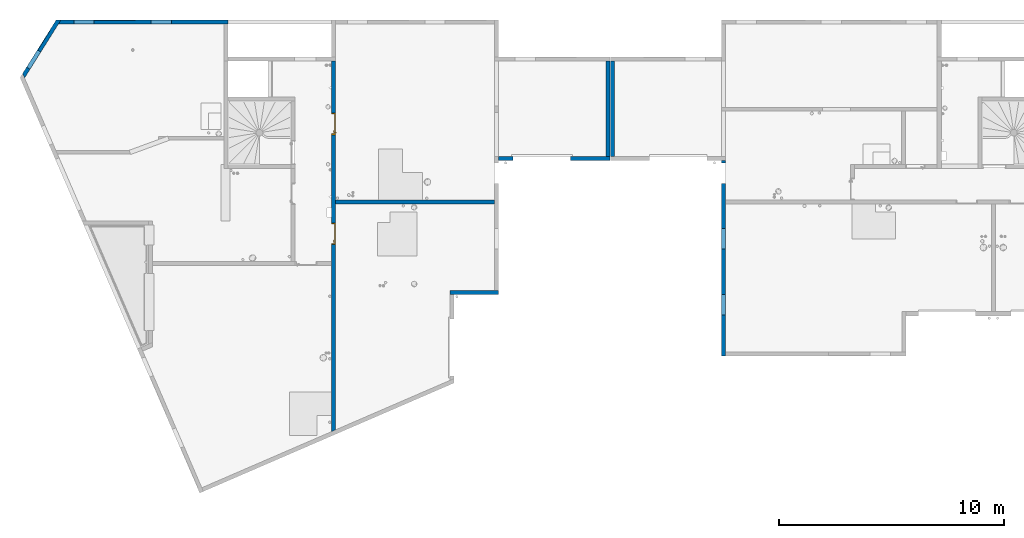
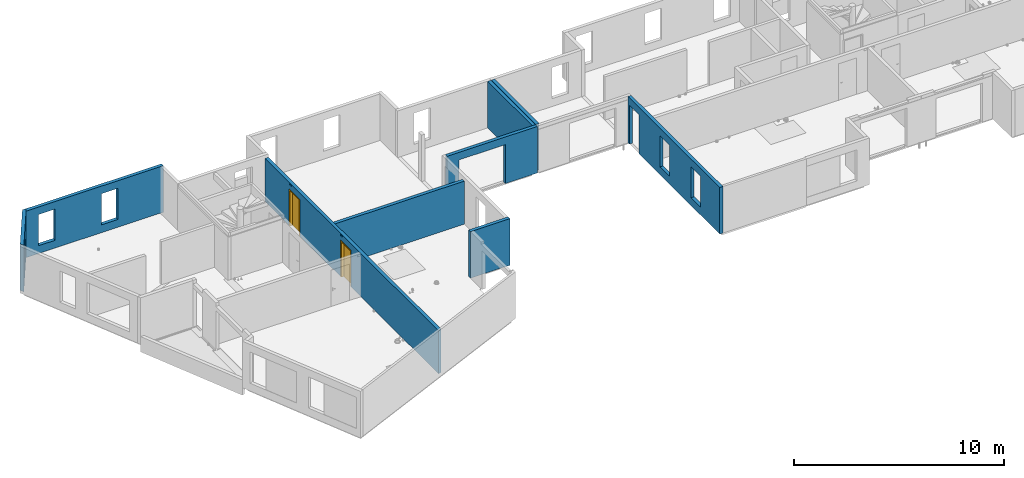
# One storey, part 5 of 30: 9 walls, 2 doors, 13 openings.
"""IFC2X3 building model written with IfcOpenShell, lengths in centimetres."""

import ifcopenshell
import ifcopenshell.guid

model = None  # the IFC model being written
_history = None  # IfcOwnerHistory: only IFC2X3 demands one
_inside = {}  # id of a spatial element -> (the spatial element, [elements in it])
_under = {}  # id of a project, library or spatial element -> (it, [spatial elements below it])
_declared = {}  # id of a project -> (the project, [libraries it declares])
_typed = {}  # id of a type object -> (the type object, [elements of that type])
_made_of = {}  # id of a material, layer set ... -> (it, [elements and type objects made of it])


def new_model(schema):
    """Start an empty IFC model of exactly this schema.

    Asked for "IFC4X3", IfcOpenShell would pick the latest addendum, in which some entities
    have other attributes; the version numbers below select the first issue.
    IFC2X3 requires an IfcOwnerHistory on every rooted entity: one is made here for all.
    """
    global model, _history
    if schema == "IFC4X3":
        model = ifcopenshell.file(schema_version=(4, 3, 0, 0))
    else:
        model = ifcopenshell.file(schema=schema)
    _inside.clear()
    _under.clear()
    _declared.clear()
    _typed.clear()
    _made_of.clear()
    _history = None
    if model.schema == "IFC2X3":
        org = make("IfcOrganization", Name="unknown")
        user = make(
            "IfcPersonAndOrganization",
            ThePerson=make("IfcPerson", FamilyName="unknown"),
            TheOrganization=org,
        )
        app = make(
            "IfcApplication",
            ApplicationDeveloper=org,
            Version="unknown",
            ApplicationFullName="unknown",
            ApplicationIdentifier="unknown",
        )
        _history = make(
            "IfcOwnerHistory",
            OwningUser=user,
            OwningApplication=app,
            ChangeAction="ADDED",
            CreationDate=0,
        )
    return model


def make(cls, **values):
    """One entity of the class cls with the attributes given. An attribute that is None is left unset."""
    return model.create_entity(
        cls, **{name: value for name, value in values.items() if value is not None}
    )


def entity(cls, *values):
    """Any entity or typed value of the class cls, its attributes in the order of the schema. None: left unset."""
    e = model.create_entity(cls)
    for i, value in enumerate(values):
        if value is not None:
            e[i] = value
    return e


def rooted(cls, **values):
    """An entity with a GlobalId (a new one), such as an element, a storey or a relation."""
    return make(cls, GlobalId=ifcopenshell.guid.new(), OwnerHistory=_history, **values)


def si_unit(unit_type, name, prefix=None):
    """IfcSIUnit, for example si_unit("LENGTHUNIT", "METRE", prefix="MILLI")."""
    return make("IfcSIUnit", UnitType=unit_type, Prefix=prefix, Name=name)


def converted_unit(unit_type, name, factor, base, dimensions=None, offset=None):
    """IfcConversionBasedUnit, such as the inch: factor (a typed value) times the base unit."""
    return make(
        "IfcConversionBasedUnit"
        if offset is None
        else "IfcConversionBasedUnitWithOffset",
        ConversionOffset=offset,
        Dimensions=None
        if dimensions is None
        else entity("IfcDimensionalExponents", *dimensions),
        UnitType=unit_type,
        Name=name,
        ConversionFactor=make(
            "IfcMeasureWithUnit", ValueComponent=factor, UnitComponent=base
        ),
    )


def derived_unit(unit_type, elements):
    """IfcDerivedUnit: a product of units, each with its exponent."""
    return make(
        "IfcDerivedUnit",
        Elements=[
            make("IfcDerivedUnitElement", Unit=unit, Exponent=power)
            for unit, power in elements
        ],
        UnitType=unit_type,
    )


def assignment(units):
    """IfcUnitAssignment: the units of a project."""
    return None if units is None else make("IfcUnitAssignment", Units=units)


def point(xyz):
    """IfcCartesianPoint."""
    return None if xyz is None else make("IfcCartesianPoint", Coordinates=xyz)


def direction(xyz):
    """IfcDirection."""
    return None if xyz is None else make("IfcDirection", DirectionRatios=xyz)


def frame(location, z_axis=None, x_axis=None):
    """IfcAxis2Placement3D, a coordinate frame: its origin and axes. An axis left out is left unset."""
    return make(
        "IfcAxis2Placement3D",
        Location=point(location),
        Axis=direction(z_axis),
        RefDirection=direction(x_axis),
    )


def frame_2d(location, x_axis=None):
    """IfcAxis2Placement2D, a coordinate frame in the plane: its origin and x axis."""
    return make(
        "IfcAxis2Placement2D", Location=point(location), RefDirection=direction(x_axis)
    )


def origin():
    """The frame at (0, 0, 0) with its axes left unset."""
    return frame((0.0, 0.0, 0.0))


def origin_2d_with_axis():
    """The frame at (0, 0) in the plane with the x axis (1, 0) written out."""
    return frame_2d((0.0, 0.0), x_axis=(1.0, 0.0))


def place(relative_to, where):
    """IfcLocalPlacement: puts the frame where relative to a parent placement (None: the world)."""
    return make(
        "IfcLocalPlacement", PlacementRelTo=relative_to, RelativePlacement=where
    )


def context(
    kind, dimensions, precision=None, world=None, true_north=None, identifier=None
):
    """IfcGeometricRepresentationContext, for example the 3D "Model" context."""
    return make(
        "IfcGeometricRepresentationContext",
        ContextIdentifier=identifier,
        ContextType=kind,
        CoordinateSpaceDimension=dimensions,
        Precision=precision,
        WorldCoordinateSystem=world,
        TrueNorth=true_north,
    )


def subcontext(parent, identifier, kind, view, scale=None):
    """IfcGeometricRepresentationSubContext, for example "Body" below "Model"."""
    return make(
        "IfcGeometricRepresentationSubContext",
        ContextIdentifier=identifier,
        ContextType=kind,
        ParentContext=parent,
        TargetScale=scale,
        TargetView=view,
    )


def project(units=None, contexts=None):
    """IfcProject with its units and contexts."""
    return rooted(
        "IfcProject",
        Name="project",
        RepresentationContexts=contexts,
        UnitsInContext=assignment(units),
    )


def spatial(cls, under=None, at=None, **own):
    """A site, building, storey or space (cls), placed at a placement, below another one or the project."""
    s = rooted(cls, ObjectPlacement=at, **own)
    if under is not None:
        _under.setdefault(under.id(), (under, []))[1].append(s)
    return s


def polyline(points):
    """IfcPolyline through the points."""
    return make("IfcPolyline", Points=[point(p) for p in points])


def profile(cls, at=None, kind="AREA", **sizes):
    """A parametric profile (cls). Its sizes go by their IFC names, for example OverallWidth=200.0."""
    return make(cls, ProfileType=kind, Position=at, **sizes)


def rectangle(**sizes):
    """IfcRectangleProfileDef."""
    return profile("IfcRectangleProfileDef", **sizes)


def outline(outer, holes=None, kind="AREA"):
    """IfcArbitraryClosedProfileDef: a profile drawn as a closed curve; with holes, ...WithVoids."""
    if holes is None:
        return make("IfcArbitraryClosedProfileDef", ProfileType=kind, OuterCurve=outer)
    return make(
        "IfcArbitraryProfileDefWithVoids",
        ProfileType=kind,
        OuterCurve=outer,
        InnerCurves=holes,
    )


def extrude(swept, where, along, depth):
    """IfcExtrudedAreaSolid: the profile swept, set in the frame where, extruded along a direction by depth."""
    return make(
        "IfcExtrudedAreaSolid",
        SweptArea=swept,
        Position=where,
        ExtrudedDirection=direction(along),
        Depth=depth,
    )


def faces_of(points, faces, orient=None, outer=None):
    """IfcFace entities. A face is a list of loops; a loop is a list of indices into points, from 0.

    orient and outer hold one flag for each loop. By default every Orientation is true, the
    first loop of a face is its IfcFaceOuterBound and the others are IfcFaceBound.
    """
    made = []
    for i, loops in enumerate(faces):
        bounds = []
        for j, loop in enumerate(loops):
            is_outer = j == 0 if outer is None else outer[i][j]
            bounds.append(
                make(
                    "IfcFaceOuterBound" if is_outer else "IfcFaceBound",
                    Bound=make("IfcPolyLoop", Polygon=[points[k] for k in loop]),
                    Orientation=True if orient is None else orient[i][j],
                )
            )
        made.append(make("IfcFace", Bounds=bounds))
    return made


def faceted_brep(points, faces, orient=None, outer=None, voids=None):
    """IfcFacetedBrep: a solid bounded by flat faces; with voids (closed shells), ...WithVoids."""
    shared = [point(p) for p in points]
    hull = make("IfcClosedShell", CfsFaces=faces_of(shared, faces, orient, outer))
    if voids is None:
        return make("IfcFacetedBrep", Outer=hull)
    return make(
        "IfcFacetedBrepWithVoids",
        Outer=hull,
        Voids=[
            make(cls, CfsFaces=faces_of(shared, fs, o, b)) for cls, fs, o, b in voids
        ],
    )


def shape(context_of_items, identifier, shape_type, items):
    """IfcShapeRepresentation: the items that make up one representation, for example the "Body"."""
    return make(
        "IfcShapeRepresentation",
        ContextOfItems=context_of_items,
        RepresentationIdentifier=identifier,
        RepresentationType=shape_type,
        Items=items,
    )


def source(mapping_origin, context_of_items, identifier, shape_type, items):
    """IfcRepresentationMap: a shape defined once, which mapped items show again and again."""
    return make(
        "IfcRepresentationMap",
        MappingOrigin=mapping_origin,
        MappedRepresentation=shape(context_of_items, identifier, shape_type, items),
    )


def transform(
    local_origin,
    x_axis=None,
    y_axis=None,
    z_axis=None,
    scale=None,
    scale2=None,
    scale3=None,
    uniform=True,
):
    """IfcCartesianTransformationOperator3D, or its non-uniform kind. x_axis, y_axis, z_axis: its Axis1, 2, 3."""
    if uniform:
        return make(
            "IfcCartesianTransformationOperator3D",
            Axis1=direction(x_axis),
            Axis2=direction(y_axis),
            LocalOrigin=point(local_origin),
            Scale=scale,
            Axis3=direction(z_axis),
        )
    return make(
        "IfcCartesianTransformationOperator3DnonUniform",
        Axis1=direction(x_axis),
        Axis2=direction(y_axis),
        LocalOrigin=point(local_origin),
        Scale=scale,
        Axis3=direction(z_axis),
        Scale2=scale2,
        Scale3=scale3,
    )


def mapped(mapping_source, mapping_target):
    """IfcMappedItem: shows the shape of a source again, moved by a transform."""
    return make(
        "IfcMappedItem", MappingSource=mapping_source, MappingTarget=mapping_target
    )


def material(Name=None, Category=None):
    """IfcMaterial."""
    return make("IfcMaterial", Name=Name, Category=Category)


def material_list(materials):
    """IfcMaterialList."""
    return make("IfcMaterialList", Materials=materials)


def layer(
    of_material, thickness, ventilated=None, Name=None, Category=None, Priority=None
):
    """IfcMaterialLayer: one layer of a wall or slab, of a material (None: an air gap)."""
    return make(
        "IfcMaterialLayer",
        Material=of_material,
        LayerThickness=thickness,
        IsVentilated=ventilated,
        Name=Name,
        Category=Category,
        Priority=Priority,
    )


def layer_set(layers, Name=None):
    """IfcMaterialLayerSet."""
    return make("IfcMaterialLayerSet", MaterialLayers=layers, LayerSetName=Name)


def layer_usage(for_layer_set, set_direction, sense, offset, extent=None):
    """IfcMaterialLayerSetUsage: how a layer set lies in its element."""
    return make(
        "IfcMaterialLayerSetUsage",
        ForLayerSet=for_layer_set,
        LayerSetDirection=set_direction,
        DirectionSense=sense,
        OffsetFromReferenceLine=offset,
        ReferenceExtent=extent,
    )


def made_of(thing, what):
    """Note that an element or type object is made of a material, layer set ...; save() writes the relation."""
    if what is not None:
        _made_of.setdefault(what.id(), (what, []))[1].append(thing)
    return thing


def type_object(cls, material=None, **own):
    """A type object (cls), such as IfcWallType, which elements share."""
    return made_of(rooted(cls, **own), material)


def type_shapes(of_type, sources):
    """Give a type object the sources (RepresentationMaps) that its elements show as mapped items."""
    of_type.RepresentationMaps = sources


def element(
    cls,
    number,
    at=None,
    inside=None,
    cuts=None,
    type_object=None,
    material=None,
    context=None,
    identifier="Body",
    shape_type=None,
    held_by="IfcProductDefinitionShape",
    body=None,
    shapes=None,
    **own,
):
    """One element of the class cls, such as IfcWall. Its Tag is "e" and its number.

    at: its placement. inside: the storey or other place that contains it. cuts: it is an
    opening in that element (IfcRelVoidsElement). A single representation is given by context,
    identifier, shape_type and body (its items); several are given by shapes. held_by: the class
    of the entity that holds the representations. save() writes the other relations.
    """
    e = rooted(cls, Tag="e%d" % number, ObjectPlacement=at, **own)
    if body is not None:
        shapes = [shape(context, identifier, shape_type, body)]
    if shapes is not None:
        e.Representation = make(held_by, Representations=shapes)
    if inside is not None:
        _inside.setdefault(inside.id(), (inside, []))[1].append(e)
    if cuts is not None:
        rooted(
            "IfcRelVoidsElement", RelatingBuildingElement=cuts, RelatedOpeningElement=e
        )
    if type_object is not None:
        _typed.setdefault(type_object.id(), (type_object, []))[1].append(e)
    return made_of(e, material)


def fill(opening, filler):
    """IfcRelFillsElement: the door or window that sits in an opening."""
    return rooted(
        "IfcRelFillsElement",
        RelatingOpeningElement=opening,
        RelatedBuildingElement=filler,
    )


def aggregate(whole, parts):
    """IfcRelAggregates: a whole, such as a stair, and the parts it consists of."""
    return rooted("IfcRelAggregates", RelatingObject=whole, RelatedObjects=parts)


def save(model, path):
    """Write the relations noted so far, then the file.

    IfcRelAggregates (storeys below a building ...), IfcRelContainedInSpatialStructure (elements
    in a storey), IfcRelDefinesByType, IfcRelAssociatesMaterial and IfcRelDeclares: one each for
    every whole, place, type object, material and project.
    """
    for whole, parts in _under.values():
        aggregate(whole, parts)
    for where, things in _inside.values():
        rooted(
            "IfcRelContainedInSpatialStructure",
            RelatedElements=things,
            RelatingStructure=where,
        )
    for kind, things in _typed.values():
        rooted("IfcRelDefinesByType", RelatedObjects=things, RelatingType=kind)
    for what, things in _made_of.values():
        rooted("IfcRelAssociatesMaterial", RelatedObjects=things, RelatingMaterial=what)
    for by, libraries in _declared.values():
        rooted("IfcRelDeclares", RelatingContext=by, RelatedDefinitions=libraries)
    model.write(path)


model = new_model("IFC2X3")

# Units and contexts
model_context = context("Model", 3, precision=0.001, world=origin(), true_north=direction((6.12303176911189e-17, 1.0)))
body_context = subcontext(model_context, "Body", "Model", "MODEL_VIEW")
ifc_project = project(units=[si_unit("LENGTHUNIT", "METRE", prefix="CENTI"), si_unit("AREAUNIT", "SQUARE_METRE"), si_unit("VOLUMEUNIT", "CUBIC_METRE"), converted_unit("PLANEANGLEUNIT", "DEGREE", entity("IfcRatioMeasure", 0.0174532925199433), si_unit("PLANEANGLEUNIT", "RADIAN"), dimensions=[0, 0, 0, 0, 0, 0, 0]), si_unit("MASSUNIT", "GRAM", prefix="KILO"), derived_unit("MASSDENSITYUNIT", [(si_unit("MASSUNIT", "GRAM", prefix="KILO"), 1), (si_unit("LENGTHUNIT", "METRE"), -3)]), si_unit("TIMEUNIT", "SECOND"), si_unit("FREQUENCYUNIT", "HERTZ"), si_unit("THERMODYNAMICTEMPERATUREUNIT", "DEGREE_CELSIUS"), derived_unit("THERMALTRANSMITTANCEUNIT", [(si_unit("MASSUNIT", "GRAM", prefix="KILO"), 1), (si_unit("THERMODYNAMICTEMPERATUREUNIT", "KELVIN"), -1), (si_unit("TIMEUNIT", "SECOND"), -3)]), derived_unit("VOLUMETRICFLOWRATEUNIT", [(si_unit("LENGTHUNIT", "METRE"), 3), (si_unit("TIMEUNIT", "SECOND"), -1)]), si_unit("ELECTRICCURRENTUNIT", "AMPERE"), si_unit("ELECTRICVOLTAGEUNIT", "VOLT"), si_unit("POWERUNIT", "WATT"), si_unit("FORCEUNIT", "NEWTON"), si_unit("ILLUMINANCEUNIT", "LUX"), si_unit("LUMINOUSFLUXUNIT", "LUMEN"), si_unit("LUMINOUSINTENSITYUNIT", "CANDELA"), derived_unit("USERDEFINED", [(si_unit("MASSUNIT", "GRAM", prefix="KILO"), -1), (si_unit("LENGTHUNIT", "METRE"), -2), (si_unit("TIMEUNIT", "SECOND"), 3), (si_unit("LUMINOUSFLUXUNIT", "LUMEN"), 1)]), derived_unit("LINEARVELOCITYUNIT", [(si_unit("LENGTHUNIT", "METRE"), 1), (si_unit("TIMEUNIT", "SECOND"), -1)]), si_unit("PRESSUREUNIT", "PASCAL"), derived_unit("USERDEFINED", [(si_unit("LENGTHUNIT", "METRE"), -2), (si_unit("MASSUNIT", "GRAM", prefix="KILO"), 1), (si_unit("TIMEUNIT", "SECOND"), -2)])], contexts=[model_context])

# Site, building, storey
site_placement = place(None, origin())
site = spatial("IfcSite", under=ifc_project, at=site_placement, Name="Default", CompositionType="ELEMENT")
building_placement = place(site_placement, origin())
building = spatial("IfcBuilding", under=site, at=building_placement, Name="CAGE 03", CompositionType="ELEMENT")
storey_placement = place(building_placement, frame((0.0, 0.0, 610.0)))
storey = spatial("IfcBuildingStorey", under=building, at=storey_placement, Name="R+2", CompositionType="ELEMENT", Elevation=610.0)

# Wall, openings
ifc_material_1 = material(Name="Béton, C25/30")
ifc_layer = layer(ifc_material_1, 18.0)
ifc_layer_set = layer_set([ifc_layer], Name="Mur de base:Voile BA 18")
ifc_layer_usage_1 = layer_usage(ifc_layer_set, "AXIS2", "NEGATIVE", 9.0)
wall_type = type_object("IfcWallType", Name="Mur de base:Voile BA 18", PredefinedType="STANDARD", material=ifc_layer_set)
wall_1_placement = place(storey_placement, frame((2759.68470555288, 5040.14221656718, 0.0), z_axis=(0.0, 0.0, 1.0), x_axis=(0.53179185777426, 0.846875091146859, 0.0)))
wall_1 = element("IfcWallStandardCase", 1, at=wall_1_placement, inside=storey, type_object=wall_type, material=ifc_layer_usage_1, Name="Mur de base:Voile BA 18", ObjectType="Mur de base:Voile BA 18", context=body_context, shape_type="SweptSolid", body=[
    extrude(outline(polyline([(305.009060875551, -9.0), (293.706032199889, 9.0), (12.3599581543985, 9.0), (0.0, -9.0), (283.754450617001, -9.0), (305.009060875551, -9.0)])), origin(), (0.0, 0.0, 1.0), 270.0),
])
opening_1_placement = place(wall_1_placement, origin())
element("IfcOpeningElement", 2, at=opening_1_placement, cuts=wall_1, Name="Mur de base:Voile BA 18", ObjectType="Recess", context=body_context, shape_type="SweptSolid", body=[
    extrude(rectangle(XDim=181.0, YDim=102.0, at=frame_2d((5.6843418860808e-14, -3.62376795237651e-13), x_axis=(1.0, 0.0))), frame((187.615479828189, 7.0, 135.499999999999), z_axis=(0.0, 1.0, 0.0), x_axis=(0.0, 0.0, -1.0)), (0.0, 0.0, 1.0), 1.99999999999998),
])
opening_2_placement = place(wall_1_placement, frame((-5735.94875548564, -343.198356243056, 0.0), z_axis=(0.0, 0.0, 1.0), x_axis=(0.53179185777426, -0.846875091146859, 0.0)))
element("IfcOpeningElement", 3, at=opening_2_placement, cuts=wall_1, Name="Mur de base:Voile BA 18", ObjectType="Opening", context=body_context, shape_type="SweptSolid", body=[
    extrude(rectangle(XDim=181.0, YDim=91.0, at=frame_2d((0.0, 4.83169060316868e-13), x_axis=(1.0, 0.0))), frame((2929.58106391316, 5041.04669444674, 135.5), z_axis=(-0.846875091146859, 0.53179185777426, 0.0), x_axis=(0.0, 0.0, 1.0)), (0.0, 0.0, 1.0), 304.8),
])

ifc_layer_usage_2 = layer_usage(ifc_layer_set, "AXIS2", "NEGATIVE", 9.0)
wall_2_placement = place(storey_placement, frame((2918.20488781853, 5284.66066607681, 0.0)))
wall_2 = element("IfcWallStandardCase", 4, at=wall_2_placement, inside=storey, type_object=wall_type, material=ifc_layer_usage_2, Name="Mur de base:Voile BA 18", ObjectType="Mur de base:Voile BA 18", context=body_context, shape_type="SweptSolid", body=[
    extrude(outline(polyline([(754.160932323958, -9.0), (754.160932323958, 9.0), (11.3030286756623, 9.0), (0.0, -9.0), (736.160932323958, -9.0), (754.160932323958, -9.0)])), origin(), (0.0, 0.0, 1.0), 270.0),
])
opening_3_placement = place(wall_2_placement, origin())
element("IfcOpeningElement", 5, at=opening_3_placement, cuts=wall_2, Name="Mur de base:Voile BA 18", ObjectType="Recess", context=body_context, shape_type="SweptSolid", body=[
    extrude(rectangle(XDim=181.0, YDim=184.0, at=frame_2d((-5.6843418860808e-14, 0.0), x_axis=(1.0, 0.0))), frame((251.160932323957, 7.0, 135.499999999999), z_axis=(0.0, 1.0, 0.0), x_axis=(0.0, 0.0, -1.0)), (0.0, 0.0, 1.0), 1.99999999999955),
])
opening_4_placement = place(wall_2_placement, frame((-2918.20488781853, -5284.66066607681, 0.0)))
element("IfcOpeningElement", 6, at=opening_4_placement, cuts=wall_2, Name="Mur de base:Voile BA 18", ObjectType="Opening", context=body_context, shape_type="SweptSolid", body=[
    extrude(rectangle(XDim=181.0, YDim=91.0000000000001, at=origin_2d_with_axis()), frame((3031.86582014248, 5123.26066607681, 135.5), z_axis=(0.0, 1.0, 0.0), x_axis=(0.0, 0.0, 1.0)), (0.0, 0.0, 1.0), 304.8),
])
opening_5_placement = place(wall_2_placement, frame((-2918.20488781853, -5284.66066607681, 0.0)))
element("IfcOpeningElement", 7, at=opening_5_placement, cuts=wall_2, Name="Mur de base:Voile BA 18", ObjectType="Opening", context=body_context, shape_type="SweptSolid", body=[
    extrude(rectangle(XDim=181.0, YDim=91.0000000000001, at=origin_2d_with_axis()), frame((3376.86582014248, 5123.26066607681, 135.5), z_axis=(0.0, 1.0, 0.0), x_axis=(0.0, 0.0, 1.0)), (0.0, 0.0, 1.0), 304.8),
])

# Wall
ifc_layer_usage_3 = layer_usage(ifc_layer_set, "AXIS2", "POSITIVE", -9.0)
wall_3_placement = place(storey_placement, frame((4662.36582014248, 4081.16066607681, 0.0)))
element("IfcWallStandardCase", 8, at=wall_3_placement, inside=storey, type_object=wall_type, material=ifc_layer_usage_3, Name="Mur de base:Voile BA 18", ObjectType="Mur de base:Voile BA 18", context=body_context, shape_type="SweptSolid", body=[
    extrude(rectangle(XDim=216.0, YDim=17.9999999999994, at=frame_2d((108.0, -7.63833440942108e-14), x_axis=(-1.0, 0.0))), origin(), (0.0, 0.0, 1.0), 270.0),
])

# Wall, opening
ifc_layer_usage_4 = layer_usage(ifc_layer_set, "AXIS2", "POSITIVE", -9.0)
wall_4_placement = place(storey_placement, frame((4878.36582014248, 4677.66066607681, 0.0)))
wall_4 = element("IfcWallStandardCase", 9, at=wall_4_placement, inside=storey, type_object=wall_type, material=ifc_layer_usage_4, Name="Mur de base:Voile BA 18", ObjectType="Mur de base:Voile BA 18", context=body_context, shape_type="SweptSolid", body=[
    extrude(rectangle(XDim=494.999999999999, YDim=17.9999999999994, at=frame_2d((247.5, -3.01980662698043e-14), x_axis=(-1.0, 0.0))), origin(), (0.0, 0.0, 1.0), 270.0),
])
opening_6_placement = place(wall_4_placement, frame((-4878.36582014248, -4677.66066607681, 0.0)))
element("IfcOpeningElement", 10, at=opening_6_placement, cuts=wall_4, Name="Mur de base:Voile BA 18", ObjectType="Opening", context=body_context, shape_type="SweptSolid", body=[
    extrude(rectangle(XDim=226.0, YDim=255.0, at=frame_2d((4.33431068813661e-13, -5.6843418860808e-14), x_axis=(0.0, 1.0))), frame((5070.86582014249, 4516.26066607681, 113.0), z_axis=(0.0, 1.0, 0.0), x_axis=(-1.0, 0.0, 0.0)), (0.0, 0.0, 1.0), 304.8),
])

# Wall, openings
ifc_layer_usage_5 = layer_usage(ifc_layer_set, "AXIS2", "POSITIVE", -9.0)
wall_5_placement = place(storey_placement, frame((5879.36582014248, 4668.6606660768, 0.0), z_axis=(0.0, 0.0, 1.0), x_axis=(0.0, -1.0, 0.0)))
wall_5 = element("IfcWallStandardCase", 11, at=wall_5_placement, inside=storey, type_object=wall_type, material=ifc_layer_usage_5, Name="Mur de base:Voile BA 18", ObjectType="Mur de base:Voile BA 18", context=body_context, shape_type="SweptSolid", body=[
    extrude(rectangle(XDim=871.999999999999, YDim=17.9999999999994, at=frame_2d((435.999999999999, 2.16715534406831e-13), x_axis=(-1.0, 0.0))), origin(), (0.0, 0.0, 1.0), 270.0),
])
opening_7_placement = place(wall_5_placement, frame((4668.6606660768, -5879.36582014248, 0.0), z_axis=(0.0, 0.0, 1.0), x_axis=(0.0, 1.0, 0.0)))
element("IfcOpeningElement", 12, at=opening_7_placement, cuts=wall_5, Name="Mur de base:Voile BA 18", ObjectType="Opening", context=body_context, shape_type="SweptSolid", body=[
    extrude(rectangle(XDim=226.0, YDim=91.0000000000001, at=frame_2d((0.0, -5.6843418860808e-14), x_axis=(0.0, 1.0))), frame((5735.96582014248, 4611.1606660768, 113.0), z_axis=(1.0, 0.0, 0.0), x_axis=(0.0, 1.0, 0.0)), (0.0, 0.0, 1.0), 304.8),
])
opening_8_placement = place(wall_5_placement, frame((4668.6606660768, -5879.36582014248, 0.0), z_axis=(0.0, 0.0, 1.0), x_axis=(0.0, 1.0, 0.0)))
element("IfcOpeningElement", 13, at=opening_8_placement, cuts=wall_5, Name="Mur de base:Voile BA 18", ObjectType="Opening", context=body_context, shape_type="SweptSolid", body=[
    extrude(rectangle(XDim=181.0, YDim=91.0000000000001, at=frame_2d((0.0, 0.0), x_axis=(0.0, 1.0))), frame((5735.96582014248, 4025.16066607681, 135.5), z_axis=(1.0, 0.0, 0.0), x_axis=(0.0, 1.0, 0.0)), (0.0, 0.0, 1.0), 304.8),
])
opening_9_placement = place(wall_5_placement, frame((4668.6606660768, -5879.36582014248, 0.0), z_axis=(0.0, 0.0, 1.0), x_axis=(0.0, 1.0, 0.0)))
element("IfcOpeningElement", 14, at=opening_9_placement, cuts=wall_5, Name="Mur de base:Voile BA 18", ObjectType="Opening", context=body_context, shape_type="SweptSolid", body=[
    extrude(rectangle(XDim=181.0, YDim=91.0000000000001, at=frame_2d((0.0, 0.0), x_axis=(0.0, 1.0))), frame((5735.96582014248, 4320.1606660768, 135.5), z_axis=(1.0, 0.0, 0.0), x_axis=(0.0, 1.0, 0.0)), (0.0, 0.0, 1.0), 304.8),
])

# Walls
ifc_layer_usage_6 = layer_usage(ifc_layer_set, "AXIS2", "NEGATIVE", 9.0)
wall_6_placement = place(storey_placement, frame((4152.36582014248, 4483.66066607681, 0.0)))
element("IfcWallStandardCase", 15, at=wall_6_placement, inside=storey, type_object=wall_type, material=ifc_layer_usage_6, Name="Mur de base:Voile BA 18", ObjectType="Mur de base:Voile BA 18", context=body_context, shape_type="SweptSolid", body=[
    extrude(rectangle(XDim=708.000000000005, YDim=17.9999999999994, at=frame_2d((354.000000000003, 2.16715534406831e-13), x_axis=(-1.0, 0.0))), origin(), (0.0, 0.0, 1.0), 250.0),
])
ifc_layer_usage_7 = layer_usage(ifc_layer_set, "AXIS2", "NEGATIVE", 9.0)
wall_7_placement = place(storey_placement, frame((5364.36582014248, 5110.66066607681, 0.0), z_axis=(0.0, 0.0, 1.0), x_axis=(0.0, -1.0, 0.0)))
element("IfcWallStandardCase", 16, at=wall_7_placement, inside=storey, type_object=wall_type, material=ifc_layer_usage_7, Name="Mur de base:Voile BA 18", ObjectType="Mur de base:Voile BA 18", context=body_context, shape_type="SweptSolid", body=[
    extrude(rectangle(XDim=424.000000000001, YDim=17.9999999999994, at=frame_2d((212.0, -1.07469588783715e-13), x_axis=(-1.0, 0.0))), origin(), (0.0, 0.0, 1.0), 270.0),
])
ifc_layer_usage_8 = layer_usage(ifc_layer_set, "AXIS2", "NEGATIVE", 9.0)
wall_8_placement = place(storey_placement, frame((5384.36582014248, 4686.66066607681, 0.0), z_axis=(0.0, 0.0, 1.0), x_axis=(0.0, 1.0, 0.0)))
element("IfcWallStandardCase", 17, at=wall_8_placement, inside=storey, type_object=wall_type, material=ifc_layer_usage_8, Name="Mur de base:Voile BA 18", ObjectType="Mur de base:Voile BA 18", context=body_context, shape_type="SweptSolid", body=[
    extrude(rectangle(XDim=424.000000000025, YDim=17.9999999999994, at=frame_2d((212.000000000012, -1.07469588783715e-13), x_axis=(-1.0, 0.0))), origin(), (0.0, 0.0, 1.0), 270.0),
])

# Wall, openings, doors
ifc_layer_usage_9 = layer_usage(ifc_layer_set, "AXIS2", "POSITIVE", -9.0)
wall_9_placement = place(storey_placement, frame((4143.36582014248, 5110.66066607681, 0.0), z_axis=(0.0, 0.0, 1.0), x_axis=(0.0, -1.0, 0.0)))
wall_9 = element("IfcWallStandardCase", 18, at=wall_9_placement, inside=storey, type_object=wall_type, material=ifc_layer_usage_9, Name="Mur de base:Voile BA 18", ObjectType="Mur de base:Voile BA 18", context=body_context, shape_type="SweptSolid", body=[
    extrude(outline(polyline([(0.0, -9.0), (654.499999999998, -9.0), (694.499999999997, -9.0), (892.499999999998, -9.0), (910.499999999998, -9.0), (1649.885805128, -9.0), (1642.09747984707, 9.0), (636.0, 9.0), (618.0, 9.0), (0.0, 9.0), (0.0, -9.0)])), origin(), (0.0, 0.0, 1.0), 250.0),
])
opening_10_placement = place(wall_9_placement, origin())
element("IfcOpeningElement", 19, at=opening_10_placement, cuts=wall_9, Name="Mur de base:Voile BA 18", ObjectType="Opening", context=body_context, shape_type="SweptSolid", body=[
    extrude(rectangle(XDim=10.0, YDim=19.9999999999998, at=frame_2d((-4.33431068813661e-13, -5.41788836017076e-14), x_axis=(0.0, 1.0))), frame((728.0, -9.0, 242.5), z_axis=(0.0, 1.0, 0.0), x_axis=(1.0, 0.0, 0.0)), (0.0, 0.0, 1.0), 17.9999999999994),
])
opening_11_placement = place(wall_9_placement, origin())
element("IfcOpeningElement", 20, at=opening_11_placement, cuts=wall_9, Name="Mur de base:Voile BA 18", ObjectType="Opening", context=body_context, shape_type="SweptSolid", body=[
    extrude(rectangle(XDim=10.0, YDim=19.9999999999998, at=frame_2d((4.33431068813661e-13, -5.41788836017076e-14), x_axis=(0.0, 1.0))), frame((239.981121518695, -9.0, 242.5), z_axis=(0.0, 1.0, 0.0), x_axis=(1.0, 0.0, 0.0)), (0.0, 0.0, 1.0), 17.9999999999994),
])
opening_12_placement = place(wall_9_placement, frame((720.0, -9.0, 0.0)))
opening_12 = element("IfcOpeningElement", 21, at=opening_12_placement, cuts=wall_9, Name="Int. Simple:HB93:1", ObjectType="Opening", context=body_context, shape_type="SweptSolid", body=[
    extrude(rectangle(XDim=210.000000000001, YDim=96.9999999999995, at=frame_2d((105.000000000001, 48.4999999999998), x_axis=(1.0, 0.0))), frame((0.0, 0.0, 0.0), z_axis=(0.0, 1.0, 0.0), x_axis=(0.0, 0.0, 1.0)), (0.0, 0.0, 1.0), 18.0),
])
opening_13_placement = place(wall_9_placement, frame((231.5, -9.0, 0.0)))
opening_13 = element("IfcOpeningElement", 22, at=opening_13_placement, cuts=wall_9, Name="Int. Simple:HB93:1", ObjectType="Opening", context=body_context, shape_type="SweptSolid", body=[
    extrude(rectangle(XDim=210.000000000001, YDim=96.9999999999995, at=frame_2d((105.000000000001, 48.4999999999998), x_axis=(1.0, 0.0))), frame((0.0, 0.0, 0.0), z_axis=(0.0, 1.0, 0.0), x_axis=(0.0, 0.0, 1.0)), (0.0, 0.0, 1.0), 18.0),
])
ifc_material_2 = material(Name="Finition Peinture - Blanc satiné")
ifc_material_3 = material(Name="Bois - Panneau de porte")
ifc_material_4 = material(Name="Bois - Cadre de porte")
ifc_material_list_1 = material_list([ifc_material_2, ifc_material_3, ifc_material_4])
ifc_material_list_2 = material_list([ifc_material_2, ifc_material_3, ifc_material_4])
door_style = type_object("IfcDoorStyle", Name="HB93", ConstructionType="NOTDEFINED", OperationType="SINGLE_SWING_LEFT", ParameterTakesPrecedence=False, Sizeable=False, material=ifc_material_list_2)
shared_shape = source(origin(), body_context, "Body", "Brep", [
    faceted_brep([(10.5352761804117, -0.500000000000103, 86.6003983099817), (11.5000000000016, -0.500000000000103, 87.0), (11.5000000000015, -0.500000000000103, 108.0), (10.5352761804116, -0.500000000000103, 108.399601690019), (9.50000000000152, -0.500000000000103, 108.535898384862), (8.46472381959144, -0.500000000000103, 108.399601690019), (7.50000000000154, -0.500000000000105, 108.0), (7.50000000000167, -0.500000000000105, 87.0), (8.46472381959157, -0.500000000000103, 86.6003983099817), (9.50000000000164, -0.500000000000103, 86.464101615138), (10.5352761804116, 0.0, 108.399601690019), (11.5000000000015, 0.0, 108.0), (11.5000000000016, 0.0, 87.0), (10.5352761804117, 0.0, 86.6003983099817), (9.50000000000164, 0.0, 86.464101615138), (8.46472381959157, 0.0, 86.6003983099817), (7.50000000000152, 0.0, 87.0), (7.50000000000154, 0.0, 108.0), (8.46472381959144, 0.0, 108.399601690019), (9.50000000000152, 0.0, 108.535898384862)], [[[0, 1, 2, 3, 4, 5, 6, 7, 8, 9]], [[10, 11, 12, 13, 14, 15, 16, 17, 18, 19]], [[16, 15, 8, 7]], [[8, 15, 14, 9]], [[14, 13, 0, 9]], [[13, 12, 1, 0]], [[2, 1, 12, 11]], [[11, 10, 3, 2]], [[3, 10, 19, 4]], [[19, 18, 5, 4]], [[18, 17, 6, 5]], [[7, 6, 17, 16]]]),
    faceted_brep([(10.5352761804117, 4.0, 86.6003983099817), (11.5000000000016, 4.0, 87.0), (11.5000000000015, 4.0, 108.0), (10.5352761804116, 4.0, 108.399601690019), (9.50000000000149, 4.0, 108.535898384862), (8.46472381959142, 4.0, 108.399601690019), (7.50000000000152, 4.0, 108.0), (7.50000000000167, 4.0, 87.0), (8.46472381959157, 4.0, 86.6003983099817), (9.50000000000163, 4.0, 86.464101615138), (10.5352761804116, 4.49999999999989, 108.399601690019), (11.5000000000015, 4.4999999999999, 108.0), (11.5000000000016, 4.4999999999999, 87.0), (10.5352761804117, 4.49999999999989, 86.6003983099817), (9.50000000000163, 4.49999999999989, 86.464101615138), (8.46472381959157, 4.49999999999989, 86.6003983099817), (7.50000000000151, 4.49999999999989, 87.0), (7.50000000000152, 4.49999999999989, 108.0), (8.46472381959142, 4.49999999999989, 108.399601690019), (9.50000000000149, 4.49999999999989, 108.535898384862)], [[[0, 1, 2, 3, 4, 5, 6, 7, 8, 9]], [[10, 11, 12, 13, 14, 15, 16, 17, 18, 19]], [[11, 10, 3, 2]], [[3, 10, 19, 4]], [[19, 18, 5, 4]], [[18, 17, 6, 5]], [[7, 6, 17, 16]], [[16, 15, 8, 7]], [[8, 15, 14, 9]], [[14, 13, 0, 9]], [[13, 12, 1, 0]], [[2, 1, 12, 11]]]),
    faceted_brep([(9.29747013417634, -0.500000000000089, 100.778044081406), (9.70252986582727, -0.500000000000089, 100.778044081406), (10.1000000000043, -0.500000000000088, 100.699999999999), (10.1000000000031, -0.500000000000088, 99.3000000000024), (9.70252986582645, -0.500000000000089, 99.2219559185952), (9.29747013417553, -0.500000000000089, 99.221955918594), (8.89999999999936, -0.500000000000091, 99.2999999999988), (8.89999999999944, -0.500000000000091, 100.7), (8.89999999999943, -3.26509507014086, 100.7), (9.29747013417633, -3.10045754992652, 100.778044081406), (10.9023585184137, -4.70534593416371, 100.778044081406), (11.0701397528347, -4.30028620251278, 100.778044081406), (9.70252986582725, -2.93267631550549, 100.778044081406), (10.1000000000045, -2.76803879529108, 100.7), (10.1000000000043, -2.76803879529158, 99.3000000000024), (9.70252986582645, -2.93267631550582, 99.2219559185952), (11.0701397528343, -4.30028620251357, 99.2219559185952), (10.9023585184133, -4.70534593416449, 99.221955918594), (9.29747013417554, -3.10045754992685, 99.221955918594), (8.89999999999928, -3.26509507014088, 99.2999999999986), (10.7377209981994, -5.1028160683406, 100.7), (11.2347772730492, -3.90281606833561, 100.7), (11.2347772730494, -3.90281606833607, 99.3000000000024), (10.7377209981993, -5.10281606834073, 99.2999999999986), (19.5018640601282, -5.1028160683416, 99.2999999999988), (19.5018640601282, -4.70534593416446, 99.221955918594), (19.5018640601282, -4.30028620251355, 99.2219559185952), (19.5018640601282, -3.90281606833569, 99.3000000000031), (19.5018640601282, -3.90281606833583, 100.7), (19.5018640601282, -4.30028620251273, 100.778044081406), (19.5018640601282, -4.70534593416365, 100.778044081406), (19.5018640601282, -5.10281606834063, 100.699999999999), (14.7307697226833, -5.10281606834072, 100.7), (15.28600190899, -4.5028160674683, 100.78786867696), (15.3683206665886, -3.9028160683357, 100.7), (15.3683206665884, -3.90281606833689, 99.3000000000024), (15.2860018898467, -4.50281607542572, 99.2121313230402), (14.7307700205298, -5.10281606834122, 99.2999999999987)], [[[0, 1, 2, 3, 4, 5, 6, 7]], [[8, 9, 0, 7]], [[9, 10, 11, 12, 1, 0]], [[12, 13, 2, 1]], [[3, 2, 13, 14]], [[14, 15, 4, 3]], [[15, 16, 17, 18, 5, 4]], [[18, 19, 6, 5]], [[7, 6, 19, 8]], [[20, 10, 9, 8]], [[11, 21, 13, 12]], [[14, 13, 21, 22]], [[22, 16, 15, 14]], [[17, 23, 19, 18]], [[8, 19, 23, 20]], [[24, 25, 26, 27, 28, 29, 30, 31]], [[32, 30, 33]], [[31, 30, 32]], [[10, 20, 32]], [[33, 34, 11]], [[21, 11, 34]], [[34, 29, 28]], [[30, 29, 33]], [[29, 34, 33]], [[10, 32, 33]], [[10, 33, 11]], [[22, 21, 34, 28, 27, 35]], [[35, 26, 36]], [[37, 36, 25]], [[22, 35, 16]], [[35, 27, 26]], [[24, 37, 25]], [[23, 17, 37]], [[37, 17, 36]], [[17, 16, 36]], [[16, 35, 36]], [[25, 36, 26]], [[20, 23, 37, 24, 31, 32]]]),
    faceted_brep([(9.29747013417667, 4.49999999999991, 100.778044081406), (8.89999999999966, 4.49999999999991, 100.7), (8.89999999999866, 4.49999999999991, 99.2999999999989), (9.2974701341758, 4.49999999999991, 99.221955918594), (9.70252986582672, 4.49999999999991, 99.2219559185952), (10.1000000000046, 4.49999999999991, 99.3000000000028), (10.1000000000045, 4.49999999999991, 100.7), (9.70252986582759, 4.49999999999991, 100.778044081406), (10.1000000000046, 6.7485204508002, 99.3000000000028), (10.1000000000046, 6.74852045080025, 100.7), (9.70252986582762, 6.91315797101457, 100.778044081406), (11.0838906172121, 8.29451872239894, 100.778044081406), (10.9161093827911, 8.69957845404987, 100.778044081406), (9.29747013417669, 7.0809392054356, 100.778044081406), (8.89999999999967, 7.24557672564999, 100.7), (8.89999999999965, 7.24557672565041, 99.2999999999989), (9.29747013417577, 7.08093920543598, 99.221955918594), (10.9161093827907, 8.69957845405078, 99.221955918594), (11.0838906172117, 8.29451872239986, 99.2219559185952), (9.7025298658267, 6.91315797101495, 99.2219559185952), (11.2485281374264, 7.89704858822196, 99.3000000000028), (11.2485281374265, 7.89704858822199, 100.7), (10.7514718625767, 9.0970485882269, 100.7), (10.751471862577, 9.0970485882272, 99.2999999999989), (19.504578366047, 7.89704858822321, 99.3000000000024), (19.504578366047, 8.29451872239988, 99.2219559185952), (19.504578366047, 8.6995784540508, 99.221955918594), (19.504578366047, 9.09704858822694, 99.2999999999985), (19.504578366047, 9.09704858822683, 100.7), (19.504578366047, 8.69957845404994, 100.778044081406), (19.504578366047, 8.29451872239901, 100.778044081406), (19.504578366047, 7.89704858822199, 100.7), (15.3765520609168, 7.89704858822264, 99.3000000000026), (15.3765532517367, 7.89704858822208, 100.7), (15.294234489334, 8.49704858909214, 100.78786867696), (14.7445205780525, 9.09704858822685, 100.7), (14.7445204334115, 9.09704858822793, 99.2999999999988), (15.2942345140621, 8.49704858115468, 99.2121313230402)], [[[0, 1, 2, 3, 4, 5, 6, 7]], [[6, 5, 8, 9]], [[9, 10, 7, 6]], [[10, 11, 12, 13, 0, 7]], [[13, 14, 1, 0]], [[2, 1, 14, 15]], [[15, 16, 3, 2]], [[16, 17, 18, 19, 4, 3]], [[19, 8, 5, 4]], [[9, 8, 20, 21]], [[21, 11, 10, 9]], [[12, 22, 14, 13]], [[15, 14, 22, 23]], [[23, 17, 16, 15]], [[18, 20, 8, 19]], [[24, 25, 26, 27, 28, 29, 30, 31]], [[21, 20, 32, 24, 31, 33]], [[33, 30, 34]], [[35, 34, 29]], [[21, 33, 11]], [[33, 31, 30]], [[28, 35, 29]], [[22, 12, 35]], [[35, 12, 34]], [[12, 11, 34]], [[11, 33, 34]], [[29, 34, 30]], [[22, 35, 28, 27, 36, 23]], [[36, 26, 37]], [[27, 26, 36]], [[17, 23, 36]], [[37, 32, 18]], [[20, 18, 32]], [[32, 25, 24]], [[26, 25, 37]], [[25, 32, 37]], [[17, 36, 37]], [[17, 37, 18]]]),
    faceted_brep([(3.50000000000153, 4.0, 206.5), (93.5000000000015, 4.0, 206.5), (93.5000000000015, 4.0, 0.0), (3.50000000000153, 4.0, 0.0), (3.50000000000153, 0.0, 206.5), (3.50000000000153, 0.0, 0.0), (93.5000000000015, 0.0, 0.0), (93.5000000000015, 0.0, 206.5)], [[[0, 1, 2, 3]], [[4, 5, 6, 7]], [[1, 0, 4, 7]], [[2, 1, 7, 6]], [[3, 2, 6, 5]], [[0, 3, 5, 4]]]),
    faceted_brep([(0.0, 0.0, 0.0), (0.0, 18.0, 0.0), (5.0, 18.0, 0.0), (5.0, 4.0, 0.0), (3.50000000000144, 4.0, 0.0), (3.50000000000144, 0.0, 0.0), (0.0, 0.0, 210.0), (0.0, 18.0, 210.0), (97.0, 18.0, 210.0), (97.0, 18.0, 0.0), (92.0, 18.0, 0.0), (92.0, 18.0, 205.0), (5.0, 18.0, 205.0), (5.0, 4.0, 205.0), (92.0, 4.0, 205.0), (92.0, 4.0, 0.0), (93.4999999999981, 4.0, 0.0), (93.4999999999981, 4.0, 206.5), (3.50000000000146, 4.0, 206.5), (3.50000000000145, 0.0, 206.5), (93.4999999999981, 0.0, 206.5), (93.4999999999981, 0.0, 0.0), (97.0, 0.0, 0.0), (97.0, 0.0, 210.0)], [[[0, 1, 2, 3, 4, 5]], [[1, 0, 6, 7]], [[2, 1, 7, 8, 9, 10, 11, 12]], [[3, 2, 12, 13]], [[4, 3, 13, 14, 15, 16, 17, 18]], [[5, 4, 18, 19]], [[0, 5, 19, 20, 21, 22, 23, 6]], [[8, 23, 22, 9]], [[22, 21, 16, 15, 10, 9]], [[14, 11, 10, 15]], [[20, 17, 16, 21]], [[7, 6, 23, 8]], [[13, 12, 11, 14]], [[19, 18, 17, 20]]]),
    faceted_brep([(1.5, 18.0, 0.0), (-1.49999999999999, 18.0, 0.0), (-1.49999999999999, 18.5000000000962, 0.0), (1.5, 18.5000000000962, 0.0), (1.5, 18.0, 208.500000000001), (95.4999999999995, 18.0, 208.500000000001), (95.4999999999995, 18.0, 0.0), (98.4999999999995, 18.0, 0.0), (98.4999999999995, 18.0, 211.500000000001), (-1.49999999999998, 18.0, 211.500000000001), (-1.49999999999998, 18.5000000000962, 211.500000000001), (98.4999999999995, 18.5000000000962, 211.500000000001), (98.4999999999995, 18.5000000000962, 0.0), (95.4999999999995, 18.5000000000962, 0.0), (95.4999999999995, 18.5000000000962, 208.500000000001), (1.50000000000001, 18.5000000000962, 208.500000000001)], [[[0, 1, 2, 3]], [[1, 0, 4, 5, 6, 7, 8, 9]], [[2, 1, 9, 10]], [[3, 2, 10, 11, 12, 13, 14, 15]], [[0, 3, 15, 4]], [[6, 13, 12, 7]], [[5, 14, 13, 6]], [[11, 8, 7, 12]], [[10, 9, 8, 11]], [[4, 15, 14, 5]]]),
    faceted_brep([(-1.49999999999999, -0.5, 0.0), (1.5, -0.5, 0.0), (1.5, -0.5, 208.500000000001), (95.4999999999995, -0.5, 208.500000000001), (95.4999999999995, -0.5, 0.0), (98.4999999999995, -0.5, 0.0), (98.4999999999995, -0.5, 211.500000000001), (-1.49999999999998, -0.5, 211.500000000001), (-1.49999999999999, 0.0, 0.0), (-1.49999999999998, 0.0, 211.500000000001), (1.5, 0.0, 0.0), (98.4999999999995, 0.0, 211.500000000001), (98.4999999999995, 0.0, 0.0), (95.4999999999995, 0.0, 0.0), (95.4999999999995, 0.0, 208.500000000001), (1.50000000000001, 0.0, 208.500000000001)], [[[0, 1, 2, 3, 4, 5, 6, 7]], [[8, 0, 7, 9]], [[10, 8, 9, 11, 12, 13, 14, 15]], [[1, 10, 15, 2]], [[3, 14, 13, 4]], [[11, 6, 5, 12]], [[9, 7, 6, 11]], [[2, 15, 14, 3]], [[4, 13, 12, 5]], [[1, 0, 8, 10]]]),
])
type_shapes(door_style, [shared_shape])
door_1_placement = place(opening_12_placement, frame((97.0, 18.0, 0.0), z_axis=(0.0, 0.0, 1.0), x_axis=(-1.0, 0.0, 0.0)))
door_1 = element("IfcDoor", 23, at=door_1_placement, inside=storey, type_object=door_style, material=ifc_material_list_1, Name="Int. Simple:HB93", ObjectType="HB93", OverallHeight=210.000000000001, OverallWidth=96.9999999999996, context=body_context, shape_type="MappedRepresentation", body=[
    mapped(shared_shape, transform((0.0, 0.0, 0.0), scale=1.0)),
])
fill(opening_12, door_1)
ifc_material_list_3 = material_list([ifc_material_2, ifc_material_3, ifc_material_4])
door_2_placement = place(opening_13_placement, frame((97.0, 18.0, 0.0), z_axis=(0.0, 0.0, 1.0), x_axis=(-1.0, 0.0, 0.0)))
door_2 = element("IfcDoor", 24, at=door_2_placement, inside=storey, type_object=door_style, material=ifc_material_list_3, Name="Int. Simple:HB93", ObjectType="HB93", OverallHeight=210.000000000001, OverallWidth=96.9999999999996, context=body_context, shape_type="MappedRepresentation", body=[
    mapped(shared_shape, transform((0.0, 0.0, 0.0), scale=1.0)),
])
fill(opening_13, door_2)

save(model, "model.ifc")
